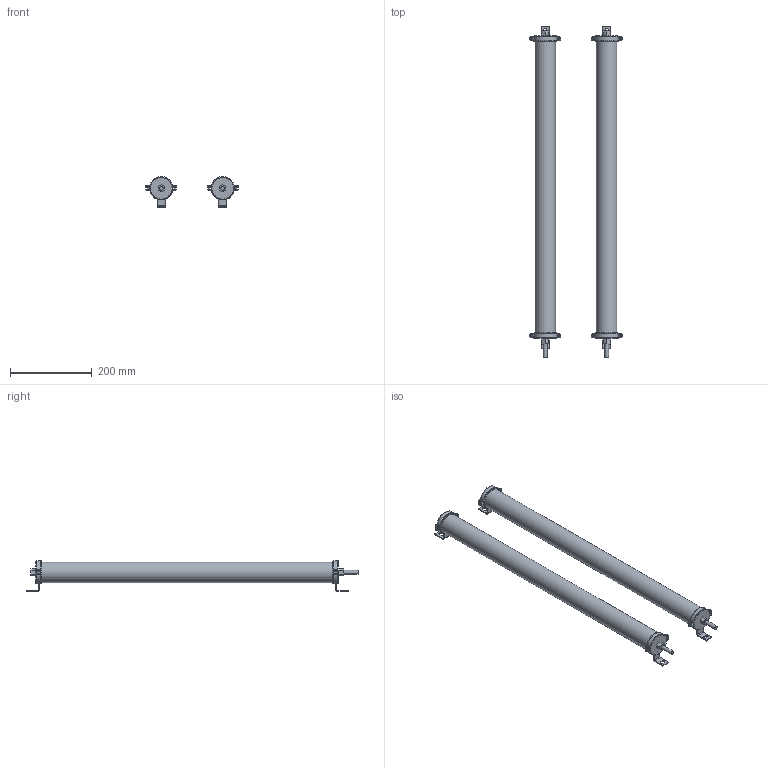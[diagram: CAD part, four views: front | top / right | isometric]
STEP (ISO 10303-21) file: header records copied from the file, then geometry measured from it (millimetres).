
FILE_DESCRIPTION( ( 'STEP AP203' ), '1' );
FILE_NAME( '//expscmdclustefs.cadenas.external/client_exchange/iodir/jobs/output/wkb80972754_no0/STEP/OY444S_2_03.stp', ' ', ( ' ' ), ( ' ' ), 'PSStep 15.0.47', 'PARTsolutions', ' ' );
FILE_SCHEMA( ( 'CONFIG_CONTROL_DESIGN' ) );
Length unit declared in the file: millimetre
Products named in the file (2): OY444S; _OY434S-P1
Assembly tree (2 placements, depth 2):
  OY444S
    _OY434S-P1  x2
Bounding box: 226 x 810.65 x 74.9 mm (x, y, z)
Volume: 2956250 mm3; surface area: 268140 mm2
Topology: 2 solids, 2 shells, 394 faces, 978 edges, 650 vertices
Faces by surface type: plane 230, cylinder 140, torus 16, cone 8
Full cylindrical faces by diameter (mm): 4.75 x24, 9 x4, 9.5 x8, 12.08 x2, 50 x2, 53 x4, 56 x8
Entity records: 5677 total; most frequent: DIRECTION 1000, CARTESIAN_POINT 948, ORIENTED_EDGE 872, EDGE_CURVE 436, AXIS2_PLACEMENT_3D 364, VERTEX_POINT 312, EDGE_LOOP 280, LINE 272
